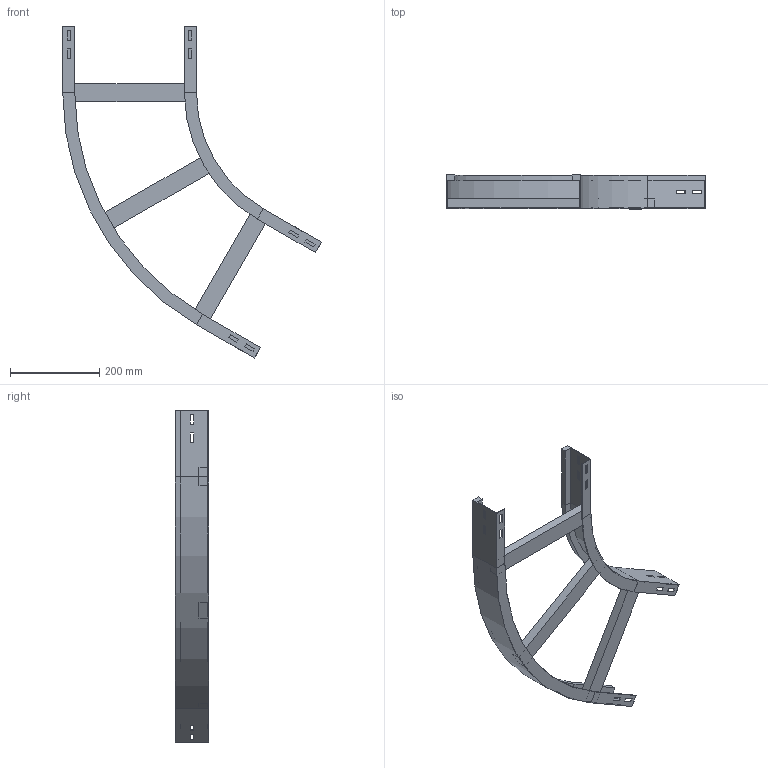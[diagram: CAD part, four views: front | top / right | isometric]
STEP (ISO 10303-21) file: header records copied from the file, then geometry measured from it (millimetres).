
FILE_DESCRIPTION (( 'STEP AP214' ), '1' );
FILE_NAME ('A2_13B3C300.step', '2025-02-21T15:21:08', ( '' ), ( '' ), 'SwSTEP 2.0', 'SolidWorks 2023', '' );
FILE_SCHEMA (( 'AUTOMOTIVE_DESIGN' ));
Length unit declared in the file: millimetre
Products named in the file (4): TRAVERSINO_300; A2_LONGH.ESTERNO 60°_H75_R300+300; A2_LONGH.INTERNO 60°_H75_R300; A2_13B3C300
Assembly tree (5 placements, depth 2):
  A2_13B3C300
    A2_LONGH.INTERNO 60°_H75_R300
    A2_LONGH.ESTERNO 60°_H75_R300+300
    TRAVERSINO_300  x3
Bounding box: 579.9 x 75 x 744.62 mm (x, y, z)
Volume: 1319003.3 mm3; surface area: 474828.8 mm2
Topology: 5 solids, 5 shells, 134 faces, 340 edges, 216 vertices
Faces by surface type: plane 126, cylinder 8
Entity records: 3821 total; most frequent: CARTESIAN_POINT 646, ORIENTED_EDGE 632, DIRECTION 592, EDGE_CURVE 316, VECTOR 300, LINE 300, VERTEX_POINT 200, EDGE_LOOP 154
